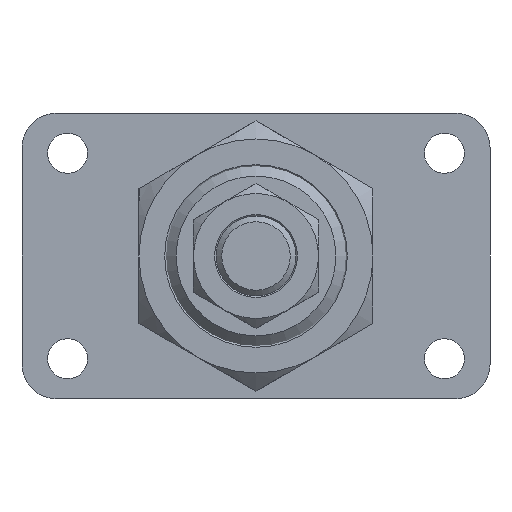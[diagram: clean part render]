
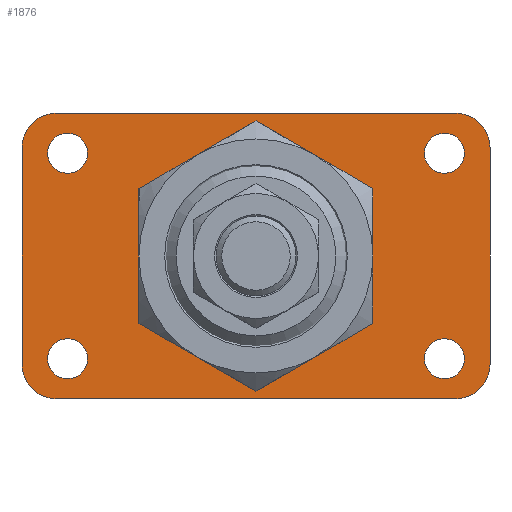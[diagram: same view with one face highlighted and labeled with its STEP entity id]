
A CAD part, front view. The second image highlights one B-rep face of the part: STEP entity #1876.
In plain terms, the highlighted planar face has unit normal (0, -1, 0).
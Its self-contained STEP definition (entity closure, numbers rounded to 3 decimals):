
#36=LINE('',#2874,#86);
#42=LINE('',#2888,#92);
#46=LINE('',#2897,#96);
#50=LINE('',#2906,#100);
#86=VECTOR('',#2353,1000.);
#92=VECTOR('',#2361,1000.);
#96=VECTOR('',#2367,1000.);
#100=VECTOR('',#2373,1000.);
#219=PLANE('',#2051);
#277=CIRCLE('',#2052,3.5);
#278=CIRCLE('',#2053,3.5);
#279=CIRCLE('',#2054,16.);
#280=CIRCLE('',#2055,3.5);
#281=CIRCLE('',#2056,3.5);
#282=CIRCLE('',#2057,6.);
#283=CIRCLE('',#2058,6.);
#284=CIRCLE('',#2059,6.);
#285=CIRCLE('',#2060,6.);
#484=ORIENTED_EDGE('',*,*,#724,.T.);
#485=ORIENTED_EDGE('',*,*,#725,.T.);
#486=ORIENTED_EDGE('',*,*,#726,.T.);
#487=ORIENTED_EDGE('',*,*,#727,.T.);
#488=ORIENTED_EDGE('',*,*,#728,.T.);
#489=ORIENTED_EDGE('',*,*,#714,.F.);
#490=ORIENTED_EDGE('',*,*,#729,.T.);
#491=ORIENTED_EDGE('',*,*,#708,.F.);
#492=ORIENTED_EDGE('',*,*,#730,.T.);
#493=ORIENTED_EDGE('',*,*,#722,.F.);
#494=ORIENTED_EDGE('',*,*,#731,.T.);
#495=ORIENTED_EDGE('',*,*,#718,.F.);
#496=ORIENTED_EDGE('',*,*,#732,.T.);
#708=EDGE_CURVE('',#853,#854,#36,.T.);
#714=EDGE_CURVE('',#859,#860,#42,.T.);
#718=EDGE_CURVE('',#863,#864,#46,.T.);
#722=EDGE_CURVE('',#867,#868,#50,.T.);
#724=EDGE_CURVE('',#869,#869,#277,.T.);
#725=EDGE_CURVE('',#870,#870,#278,.T.);
#726=EDGE_CURVE('',#871,#871,#279,.T.);
#727=EDGE_CURVE('',#872,#872,#280,.T.);
#728=EDGE_CURVE('',#873,#873,#281,.T.);
#729=EDGE_CURVE('',#859,#854,#282,.F.);
#730=EDGE_CURVE('',#853,#868,#283,.F.);
#731=EDGE_CURVE('',#867,#864,#284,.F.);
#732=EDGE_CURVE('',#863,#860,#285,.F.);
#853=VERTEX_POINT('',#2875);
#854=VERTEX_POINT('',#2876);
#859=VERTEX_POINT('',#2887);
#860=VERTEX_POINT('',#2889);
#863=VERTEX_POINT('',#2896);
#864=VERTEX_POINT('',#2898);
#867=VERTEX_POINT('',#2905);
#868=VERTEX_POINT('',#2907);
#869=VERTEX_POINT('',#2911);
#870=VERTEX_POINT('',#2913);
#871=VERTEX_POINT('',#2915);
#872=VERTEX_POINT('',#2917);
#873=VERTEX_POINT('',#2919);
#1036=EDGE_LOOP('',(#484));
#1037=EDGE_LOOP('',(#485));
#1038=EDGE_LOOP('',(#486));
#1039=EDGE_LOOP('',(#487));
#1040=EDGE_LOOP('',(#488));
#1041=EDGE_LOOP('',(#489,#490,#491,#492,#493,#494,#495,#496));
#1190=FACE_BOUND('',#1036,.T.);
#1191=FACE_BOUND('',#1037,.T.);
#1192=FACE_BOUND('',#1038,.T.);
#1193=FACE_BOUND('',#1039,.T.);
#1194=FACE_BOUND('',#1040,.T.);
#1195=FACE_BOUND('',#1041,.T.);
#1876=ADVANCED_FACE('',(#1190,#1191,#1192,#1193,#1194,#1195),#219,.F.);
#2051=AXIS2_PLACEMENT_3D('',#2909,#2375,#2376);
#2052=AXIS2_PLACEMENT_3D('',#2910,#2377,#2378);
#2053=AXIS2_PLACEMENT_3D('',#2912,#2379,#2380);
#2054=AXIS2_PLACEMENT_3D('',#2914,#2381,#2382);
#2055=AXIS2_PLACEMENT_3D('',#2916,#2383,#2384);
#2056=AXIS2_PLACEMENT_3D('',#2918,#2385,#2386);
#2057=AXIS2_PLACEMENT_3D('',#2920,#2387,#2388);
#2058=AXIS2_PLACEMENT_3D('',#2921,#2389,#2390);
#2059=AXIS2_PLACEMENT_3D('',#2922,#2391,#2392);
#2060=AXIS2_PLACEMENT_3D('',#2923,#2393,#2394);
#2353=DIRECTION('',(-1.,0.,0.));
#2361=DIRECTION('',(0.,0.,1.));
#2367=DIRECTION('',(1.,0.,0.));
#2373=DIRECTION('',(0.,0.,-1.));
#2375=DIRECTION('',(0.,1.,0.));
#2376=DIRECTION('',(0.,0.,1.));
#2377=DIRECTION('',(0.,1.,0.));
#2378=DIRECTION('',(0.,0.,1.));
#2379=DIRECTION('',(0.,1.,0.));
#2380=DIRECTION('',(0.,0.,1.));
#2381=DIRECTION('',(0.,1.,0.));
#2382=DIRECTION('',(0.,0.,1.));
#2383=DIRECTION('',(0.,1.,0.));
#2384=DIRECTION('',(0.,0.,1.));
#2385=DIRECTION('',(0.,1.,0.));
#2386=DIRECTION('',(0.,0.,1.));
#2387=DIRECTION('',(0.,1.,0.));
#2388=DIRECTION('',(0.,0.,1.));
#2389=DIRECTION('',(0.,1.,0.));
#2390=DIRECTION('',(0.,0.,1.));
#2391=DIRECTION('',(0.,1.,0.));
#2392=DIRECTION('',(0.,0.,1.));
#2393=DIRECTION('',(0.,1.,0.));
#2394=DIRECTION('',(0.,0.,1.));
#2874=CARTESIAN_POINT('',(41.,-4.5,-25.));
#2875=CARTESIAN_POINT('',(35.,-4.5,-25.));
#2876=CARTESIAN_POINT('',(-35.,-4.5,-25.));
#2887=CARTESIAN_POINT('',(-41.,-4.5,-19.));
#2888=CARTESIAN_POINT('',(-41.,-4.5,-25.));
#2889=CARTESIAN_POINT('',(-41.,-4.5,19.));
#2896=CARTESIAN_POINT('',(-35.,-4.5,25.));
#2897=CARTESIAN_POINT('',(-41.,-4.5,25.));
#2898=CARTESIAN_POINT('',(35.,-4.5,25.));
#2905=CARTESIAN_POINT('',(41.,-4.5,19.));
#2906=CARTESIAN_POINT('',(41.,-4.5,25.));
#2907=CARTESIAN_POINT('',(41.,-4.5,-19.));
#2909=CARTESIAN_POINT('',(0.,-4.5,0.));
#2910=CARTESIAN_POINT('',(-33.,-4.5,18.));
#2911=CARTESIAN_POINT('',(-33.,-4.5,21.5));
#2912=CARTESIAN_POINT('',(-33.,-4.5,-18.));
#2913=CARTESIAN_POINT('',(-33.,-4.5,-14.5));
#2914=CARTESIAN_POINT('',(0.,-4.5,0.));
#2915=CARTESIAN_POINT('',(0.,-4.5,16.));
#2916=CARTESIAN_POINT('',(33.,-4.5,-18.));
#2917=CARTESIAN_POINT('',(33.,-4.5,-14.5));
#2918=CARTESIAN_POINT('',(33.,-4.5,18.));
#2919=CARTESIAN_POINT('',(33.,-4.5,21.5));
#2920=CARTESIAN_POINT('',(-35.,-4.5,-19.));
#2921=CARTESIAN_POINT('',(35.,-4.5,-19.));
#2922=CARTESIAN_POINT('',(35.,-4.5,19.));
#2923=CARTESIAN_POINT('',(-35.,-4.5,19.));
